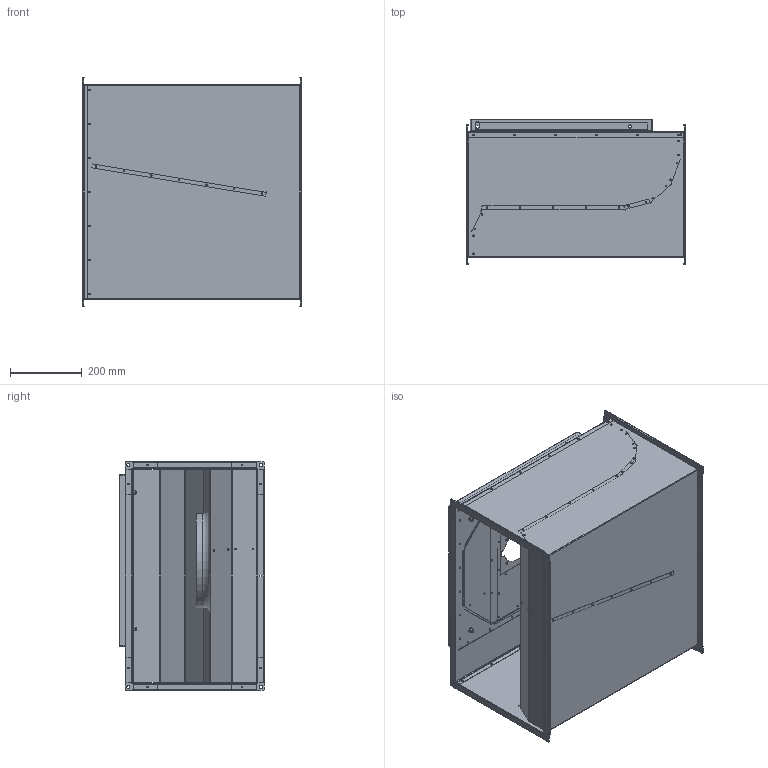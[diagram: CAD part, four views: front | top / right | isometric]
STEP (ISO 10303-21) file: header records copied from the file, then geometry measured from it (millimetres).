
FILE_DESCRIPTION (( 'STEP AP203' ), '1' );
FILE_NAME ('131312-00_KVR06035E431.STEP', '2015-05-08T11:26:50', ( '' ), ( '' ), 'SwSTEP 2.0', 'SolidWorks 2012', '' );
FILE_SCHEMA (( 'CONFIG_CONTROL_DESIGN' ));
Length unit declared in the file: millimetre
Products named in the file (1): 131312-00_KVR06035E431
Bounding box: 610 x 403.2 x 638.4 mm (x, y, z)
Surface area: 4043375.4 mm2 (no closed solid volume)
Topology: 0 solids, 84 shells, 946 faces, 3178 edges, 2246 vertices
Faces by surface type: cylinder 630, plane 298, torus 8, bspline 6, cone 4
Entity records: 36365 total; most frequent: CARTESIAN_POINT 7195, DIRECTION 6477, ORIENTED_EDGE 5102, EDGE_CURVE 3178, AXIS2_PLACEMENT_3D 2420, VERTEX_POINT 2246, LINE 1637, VECTOR 1637
